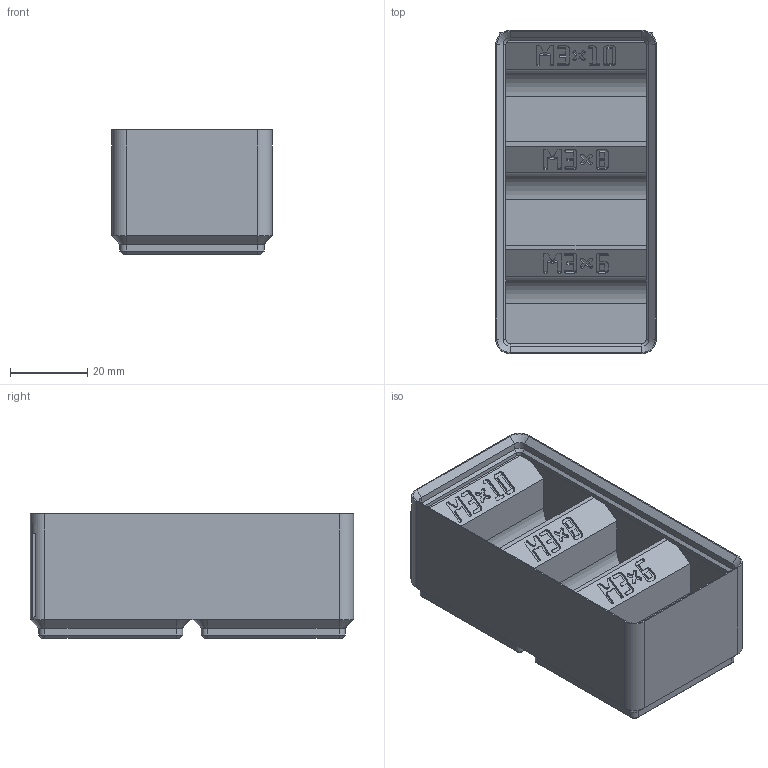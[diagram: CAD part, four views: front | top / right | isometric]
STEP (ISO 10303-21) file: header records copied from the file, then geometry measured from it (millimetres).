
FILE_DESCRIPTION(('Open CASCADE Model'),'2;1');
FILE_NAME('Open CASCADE Shape Model','2026-11-16T17:23:20',('Author'),( 'Open CASCADE'),'Open CASCADE STEP processor 8.0','build123d', 'Unknown');
FILE_SCHEMA(('AUTOMOTIVE_DESIGN { 1 0 10303 214 1 1 1 1 }'));
Products named in the file (1): COMPOUND
Bounding box: 41.5 x 83.5 x 32.1 mm (x, y, z)
Volume: 46099.6 mm3; surface area: 22429.7 mm2
Topology: 1 solids, 1 shells, 1455 faces, 4231 edges, 2800 vertices
Faces by surface type: plane 1402, cone 28, cylinder 25
Entity records: 101768 total; most frequent: CARTESIAN_POINT 17385, DIRECTION 15359, LINE 12259, VECTOR 12259, ORIENTED_EDGE 8462, PCURVE 8462, DEFINITIONAL_REPRESENTATION 8462, EDGE_CURVE 4231
